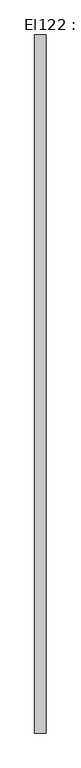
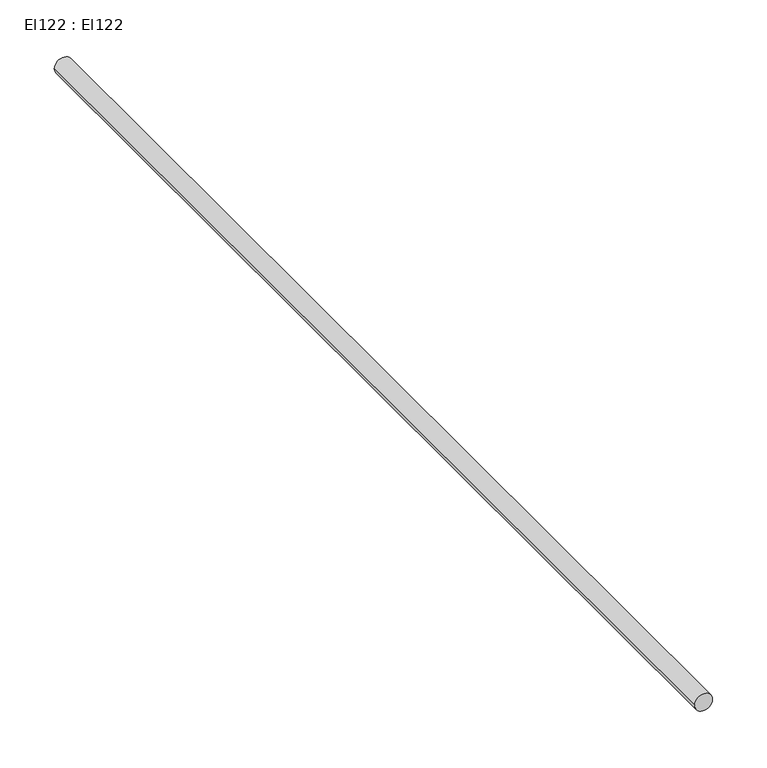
"""IFC4 building model written with IfcOpenShell, lengths in millimetres: cable carrier segment geometry, El122 : El122."""

from ifc_helpers import new_model, si_unit, point, frame, frame_2d, origin, place, context, project, spatial, circle_curve, trimmed, segment, composite_curve, outline, extrude, source, transform, mapped, element, save


def el122_el122_7658acfa(model_context):
    return source(origin(), model_context, "Body", "SweptSolid", [
        extrude(outline(composite_curve([segment(trimmed(circle_curve(frame_2d((300.0, 28980.0)), 9.5), [point((300.0, 28970.5))], [point((300.0, 28989.5))], False, "CARTESIAN"), True, "CONTINUOUS"), segment(trimmed(circle_curve(frame_2d((300.0, 28980.0)), 9.5), [point((300.0, 28989.5))], [point((300.0, 28970.5))], False, "CARTESIAN"), True, "CONTINUOUS")], self_intersect=False)), frame((0.0, 9613.691, 0.0), z_axis=(0.0, 1.0, 0.0), x_axis=(0.0, 0.0, 1.0)), (0.0, 0.0, 1.0), 1178.42),
    ])


if __name__ == "__main__":
    model = new_model("IFC4")
    model_context = context("Model", 3, world=origin())
    ifc_project = project(units=[si_unit("LENGTHUNIT", "METRE", prefix="MILLI")], contexts=[model_context])
    site = spatial("IfcSite", under=ifc_project)
    building = spatial("IfcBuilding", under=site)
    placement = place(None, origin())
    el122_el122_shape = el122_el122_7658acfa(model_context)
    element("IfcCableCarrierSegment", 1, ObjectType="El122 : El122", at=placement, inside=building, context=model_context, shape_type="MappedRepresentation", body=[
        mapped(el122_el122_shape, transform((0.0, 0.0, 0.0), x_axis=(1.0, 0.0, 0.0), y_axis=(0.0, 1.0, 0.0), z_axis=(0.0, 0.0, 1.0))),
    ])
    save(model, "model.ifc")
